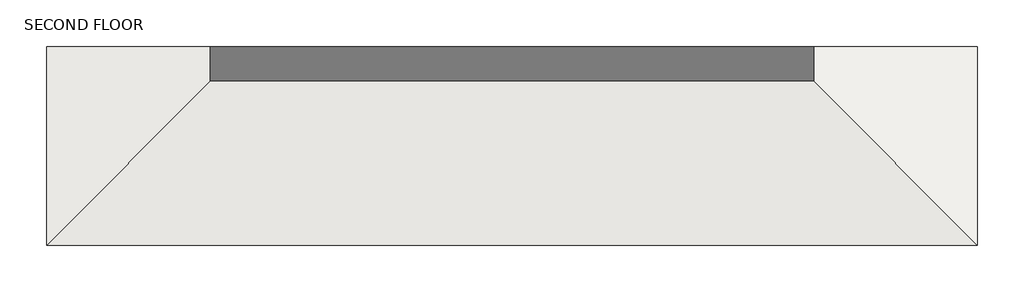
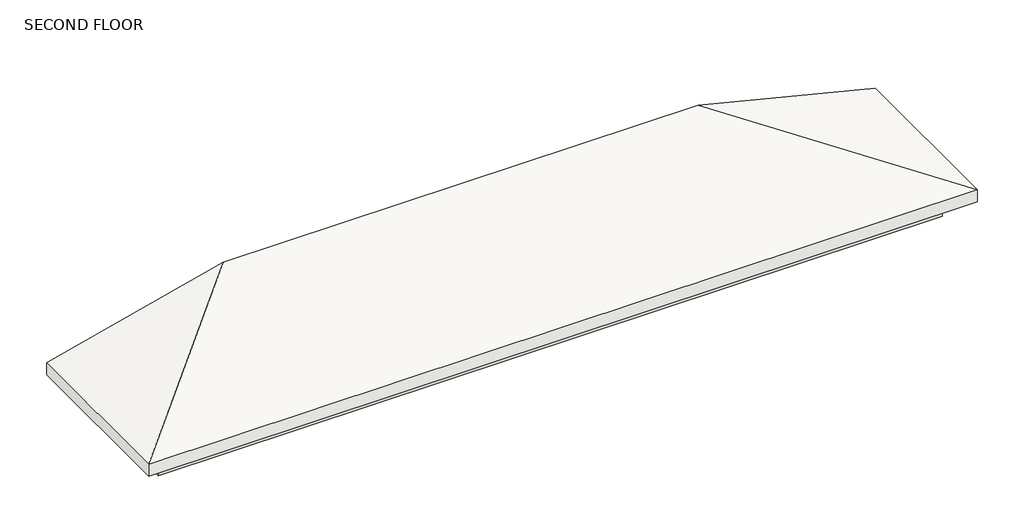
# One storey: 3 walls, 1 roof.
"""IFC4 building model written with IfcOpenShell, lengths in millimetres."""

from ifc_helpers import new_model, si_unit, frame, origin, place, context, project, spatial, polyline, outline, extrude, faceted_brep, element, save

model = new_model("IFC4")

# Units and contexts
model_context = context("Model", 3, world=origin())
ifc_project = project(units=[si_unit("LENGTHUNIT", "METRE", prefix="MILLI")], contexts=[model_context])

# Site, building, storey
site = spatial("IfcSite", under=ifc_project)
building = spatial("IfcBuilding", under=site)
storey = spatial("IfcBuildingStorey", under=building, Name="SECOND FLOOR", Elevation=3562.35)

# Roof
placement = place(None, origin())
element("IfcRoof", 1, ObjectType="Wood Rafter 6\" - Asphalt Shingle", at=placement, inside=storey, context=model_context, shape_type="Brep", body=[
    faceted_brep([(22785.8669554, -5269.1369756, 4697.4125), (25192.5169554, -5269.1369756, 4095.75), (25192.5169554, -7675.7869756, 4095.75), (13914.9169554, -7675.7869756, 4095.75), (13914.9169554, -5269.1369756, 4095.75), (16321.5669554, -5269.1369756, 4697.4125), (25192.5169554, -5269.1369756, 4265.9311847), (22785.8669554, -5269.1369756, 4867.5936847), (25192.5169554, -7675.7869756, 4265.9311847), (13914.9169554, -5269.1369756, 4265.9311847), (13914.9169554, -7675.7869756, 4265.9311847), (16321.5669554, -5269.1369756, 4867.5936847)], [[[0, 1, 2]], [[3, 4, 5]], [[3, 5, 0, 2]], [[6, 7, 8]], [[9, 10, 11]], [[10, 8, 7, 11]], [[3, 10, 9, 4]], [[2, 8, 10, 3]], [[1, 6, 8, 2]], [[9, 11, 7, 6, 1, 0, 5, 4]]]),
])

# Walls
element("IfcWall", 2, ObjectType="Generic - porch 2x4", at=placement, inside=storey, context=model_context, shape_type="SweptSolid", body=[
    extrude(outline(polyline([(14308.6169554, -5269.1369756), (14308.6169554, -7282.0869756), (14219.7169554, -7282.0869756), (14219.7169554, -5269.1369756), (14308.6169554, -5269.1369756)])), frame((0.0, 0.0, 3810.0), z_axis=(0.0, 0.0, 1.0), x_axis=(1.0, 0.0, 0.0)), (0.0, 0.0, 1.0), 304.8),
])
element("IfcWall", 3, ObjectType="Generic - porch 2x4", at=placement, inside=storey, context=model_context, shape_type="Brep", body=[
    faceted_brep([(24887.7169554, -7282.0869756, 3810.0), (24798.8169554, -7282.0869756, 3810.0), (14308.6169554, -7282.0869756, 3810.0), (14219.7169554, -7282.0869756, 3810.0), (14219.7169554, -7282.0869756, 4114.8), (14219.7169554, -7282.0869756, 4171.95), (14308.6169554, -7282.0869756, 4194.175), (24798.8169554, -7282.0869756, 4194.175), (24887.7169554, -7282.0869756, 4171.95), (24887.7169554, -7282.0869756, 4114.8), (24887.7169554, -7370.9869756, 3810.0), (24887.7169554, -7370.9869756, 4171.95), (14219.7169554, -7370.9869756, 4171.95), (14219.7169554, -7370.9869756, 3810.0)], [[[0, 1, 2, 3, 4, 5, 6, 7, 8, 9]], [[10, 11, 12, 13]], [[3, 2, 1, 0, 10, 13]], [[5, 4, 3, 13, 12]], [[0, 9, 8, 11, 10]], [[8, 7, 11]], [[7, 6, 12, 11]], [[6, 5, 12]]]),
])
element("IfcWall", 4, ObjectType="Generic - porch 2x4", at=placement, inside=storey, context=model_context, shape_type="SweptSolid", body=[
    extrude(outline(polyline([(24798.8169554, -7282.0869756), (24798.8169554, -5269.1369756), (24887.7169554, -5269.1369756), (24887.7169554, -7282.0869756), (24798.8169554, -7282.0869756)])), frame((0.0, 0.0, 3810.0), z_axis=(0.0, 0.0, 1.0), x_axis=(1.0, 0.0, 0.0)), (0.0, 0.0, 1.0), 304.8),
])

save(model, "model.ifc")
